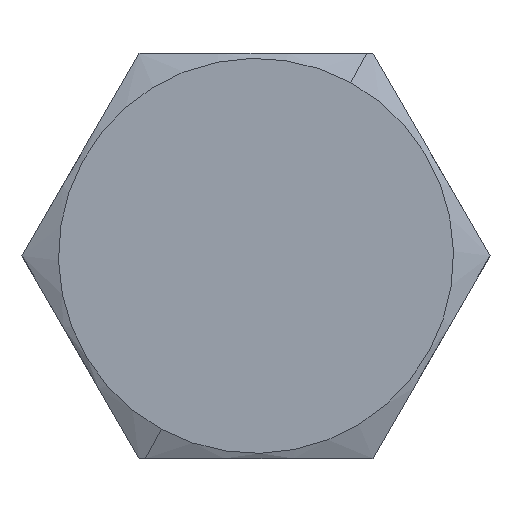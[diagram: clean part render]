
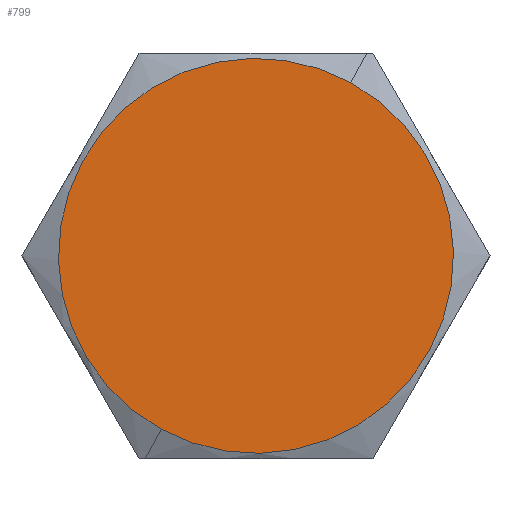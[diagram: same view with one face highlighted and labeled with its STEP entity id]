
A CAD part, top view. The second image highlights one B-rep face of the part: STEP entity #799.
In plain terms, the highlighted planar face has unit normal (0, 0, 1).
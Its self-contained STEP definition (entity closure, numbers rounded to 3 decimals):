
#750=CARTESIAN_POINT('Vertex',(-2.336,-4.277,4.)) ;
#753=CARTESIAN_POINT('Axis2P3D Location',(0.,0.,4.)) ;
#757=CARTESIAN_POINT('Vertex',(2.336,4.277,4.)) ;
#775=CARTESIAN_POINT('Axis2P3D Location',(0.,0.,4.)) ;
#790=CARTESIAN_POINT('Axis2P3D Location',(0.,4.873,4.)) ;
#754=DIRECTION('Axis2P3D Direction',(0.,0.,-1.)) ;
#776=DIRECTION('Axis2P3D Direction',(0.,0.,-1.)) ;
#791=DIRECTION('Axis2P3D Direction',(0.,0.,-1.)) ;
#792=DIRECTION('Axis2P3D XDirection',(0.,1.,0.)) ;
#755=AXIS2_PLACEMENT_3D('Circle Axis2P3D',#753,#754,$) ;
#777=AXIS2_PLACEMENT_3D('Circle Axis2P3D',#775,#776,$) ;
#793=AXIS2_PLACEMENT_3D('Plane Axis2P3D',#790,#791,#792) ;
#756=CIRCLE('generated circle',#755,4.873) ;
#778=CIRCLE('generated circle',#777,4.873) ;
#794=PLANE('',#793) ;
#759=EDGE_CURVE('',#751,#758,#756,.T.) ;
#779=EDGE_CURVE('',#758,#751,#778,.T.) ;
#796=ORIENTED_EDGE('',*,*,#779,.F.) ;
#797=ORIENTED_EDGE('',*,*,#759,.F.) ;
#795=EDGE_LOOP('',(#796,#797)) ;
#751=VERTEX_POINT('',#750) ;
#758=VERTEX_POINT('',#757) ;
#799=ADVANCED_FACE('Body.2',(#798),#794,.F.) ;
#798=FACE_OUTER_BOUND('',#795,.T.) ;
